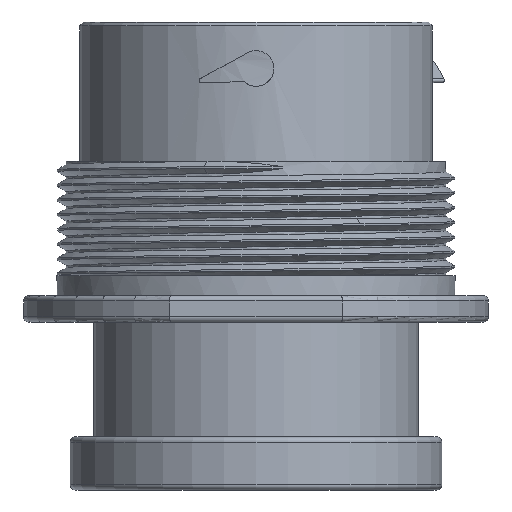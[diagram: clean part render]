
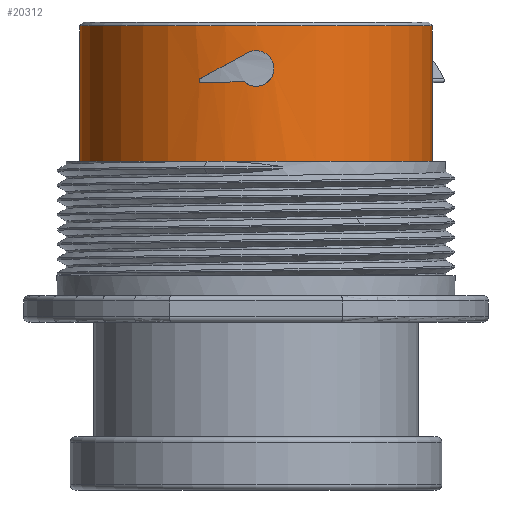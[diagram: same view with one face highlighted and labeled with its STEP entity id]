
A CAD part, left-side view. The second image highlights one B-rep face of the part: STEP entity #20312.
In plain terms, the highlighted cylindrical face has radius 16.878 mm (diameter 33.757 mm), a partial arc.
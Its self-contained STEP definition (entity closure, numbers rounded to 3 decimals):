
#7061=CARTESIAN_POINT('',(0.,0.,-0.381));
#7062=DIRECTION('',(0.,0.,1.));
#7063=DIRECTION('',(0.,1.,0.));
#7064=AXIS2_PLACEMENT_3D('',#7061,#7062,#7063);
#7066=DIRECTION('',(0.,0.,1.));
#7067=VECTOR('',#7066,12.954);
#7068=CARTESIAN_POINT('',(0.,-16.878,-13.335));
#7069=LINE('',#7068,#7067);
#7070=CARTESIAN_POINT('',(0.,0.,-13.335));
#7071=DIRECTION('',(0.,0.,1.));
#7072=DIRECTION('',(0.,1.,0.));
#7073=AXIS2_PLACEMENT_3D('',#7070,#7071,#7072);
#7075=DIRECTION('',(0.,0.,1.));
#7076=VECTOR('',#7075,12.954);
#7077=CARTESIAN_POINT('',(0.,16.878,-13.335));
#7078=LINE('',#7077,#7076);
#7079=CARTESIAN_POINT('',(-16.859,0.814,
-2.95));
#7080=CARTESIAN_POINT('',(-16.785,2.349,
-3.786));
#7081=CARTESIAN_POINT('',(-16.506,3.855,
-4.606));
#7082=CARTESIAN_POINT('',(-16.015,5.33,
-5.41));
#7084=CARTESIAN_POINT('',(-16.015,5.33,
-5.41));
#7085=CARTESIAN_POINT('',(-16.007,5.353,
-5.423));
#7086=CARTESIAN_POINT('',(-15.994,5.393,
-5.455));
#7087=CARTESIAN_POINT('',(-15.981,5.431,
-5.525));
#7088=CARTESIAN_POINT('',(-15.978,5.44,
-5.602));
#7089=CARTESIAN_POINT('',(-15.984,5.421,
-5.676));
#7090=CARTESIAN_POINT('',(-16.,5.375,
-5.74));
#7091=CARTESIAN_POINT('',(-16.022,5.307,
-5.782));
#7092=CARTESIAN_POINT('',(-16.039,5.256,
-5.792));
#7093=CARTESIAN_POINT('',(-16.048,5.228,
-5.791));
#7095=CARTESIAN_POINT('',(-16.84,1.136,
-5.712));
#7096=CARTESIAN_POINT('',(-16.746,2.533,
-5.739));
#7097=CARTESIAN_POINT('',(-16.482,3.897,
-5.765));
#7098=CARTESIAN_POINT('',(-16.048,5.228,
-5.791));
#7100=CARTESIAN_POINT('',(-16.84,1.136,
-5.712));
#7101=CARTESIAN_POINT('',(-16.847,1.026,
-5.811));
#7102=CARTESIAN_POINT('',(-16.861,0.789,
-5.974));
#7103=CARTESIAN_POINT('',(-16.876,0.37,
-6.125));
#7104=CARTESIAN_POINT('',(-16.88,-0.066,
-6.164));
#7105=CARTESIAN_POINT('',(-16.873,-0.505,
-6.09));
#7106=CARTESIAN_POINT('',(-16.856,-0.903,
-5.91));
#7107=CARTESIAN_POINT('',(-16.833,-1.25,
-5.627));
#7108=CARTESIAN_POINT('',(-16.811,-1.507,
-5.276));
#7109=CARTESIAN_POINT('',(-16.796,-1.67,
-4.858));
#7110=CARTESIAN_POINT('',(-16.79,-1.721,
-4.427));
#7111=CARTESIAN_POINT('',(-16.797,-1.658,
-3.983));
#7112=CARTESIAN_POINT('',(-16.813,-1.489,
-3.582));
#7113=CARTESIAN_POINT('',(-16.835,-1.216,
-3.228));
#7114=CARTESIAN_POINT('',(-16.857,-0.87,
-2.96));
#7115=CARTESIAN_POINT('',(-16.874,-0.46,
-2.787));
#7116=CARTESIAN_POINT('',(-16.88,-0.026,
-2.724));
#7117=CARTESIAN_POINT('',(-16.875,0.415,
-2.776));
#7118=CARTESIAN_POINT('',(-16.865,0.684,
-2.88));
#7119=CARTESIAN_POINT('',(-16.859,0.814,
-2.95));
#8026=CARTESIAN_POINT('',(0.,16.878,-13.335));
#8027=CARTESIAN_POINT('',(0.,-16.878,-13.335));
#8028=VERTEX_POINT('',#8026);
#8029=VERTEX_POINT('',#8027);
#8094=CARTESIAN_POINT('',(0.,16.878,-0.381));
#8095=CARTESIAN_POINT('',(0.,-16.878,-0.381));
#8096=VERTEX_POINT('',#8094);
#8097=VERTEX_POINT('',#8095);
#8272=VERTEX_POINT('',#7079);
#8273=VERTEX_POINT('',#7082);
#8274=VERTEX_POINT('',#7093);
#8275=VERTEX_POINT('',#7095);
#20291=CARTESIAN_POINT('',(0.,0.,1.984));
#20292=DIRECTION('',(0.,0.,-1.));
#20293=DIRECTION('',(0.,-1.,0.));
#20294=AXIS2_PLACEMENT_3D('',#20291,#20292,#20293);
#20295=CYLINDRICAL_SURFACE('',#20294,16.878);
#20296=ORIENTED_EDGE('',*,*,#20285,.T.);
#20297=ORIENTED_EDGE('',*,*,#14486,.F.);
#20298=ORIENTED_EDGE('',*,*,#14471,.F.);
#20299=ORIENTED_EDGE('',*,*,#14483,.T.);
#20300=EDGE_LOOP('',(#20296,#20297,#20298,#20299));
#20301=FACE_OUTER_BOUND('',#20300,.F.);
#20303=ORIENTED_EDGE('',*,*,#20302,.T.);
#20305=ORIENTED_EDGE('',*,*,#20304,.T.);
#20307=ORIENTED_EDGE('',*,*,#20306,.F.);
#20309=ORIENTED_EDGE('',*,*,#20308,.T.);
#20310=EDGE_LOOP('',(#20303,#20305,#20307,#20309));
#20311=FACE_BOUND('',#20310,.F.);
#20312=ADVANCED_FACE('',(#20301,#20311),#20295,.T.);
#7065=CIRCLE('',#7064,16.878);
#7074=CIRCLE('',#7073,16.878);
#7083=B_SPLINE_CURVE_WITH_KNOTS('',3,(#7079,#7080,#7081,#7082),.UNSPECIFIED.,
.F.,.F.,(4,4),(0.,1.),.UNSPECIFIED.);
#7094=B_SPLINE_CURVE_WITH_KNOTS('',3,(#7084,#7085,#7086,#7087,#7088,#7089,#7090,
#7091,#7092,#7093),.UNSPECIFIED.,.F.,.F.,(4,1,1,1,1,1,1,4),(0.,
0.143,0.286,0.429,0.571,
0.714,0.857,1.),.UNSPECIFIED.);
#7099=B_SPLINE_CURVE_WITH_KNOTS('',3,(#7095,#7096,#7097,#7098),.UNSPECIFIED.,
.F.,.F.,(4,4),(0.,1.),.UNSPECIFIED.);
#7120=B_SPLINE_CURVE_WITH_KNOTS('',3,(#7100,#7101,#7102,#7103,#7104,#7105,#7106,
#7107,#7108,#7109,#7110,#7111,#7112,#7113,#7114,#7115,#7116,#7117,#7118,#7119),
.UNSPECIFIED.,.F.,.F.,(4,1,1,1,1,1,1,1,1,1,1,1,1,1,1,1,1,4),(0.,
0.059,0.118,0.176,0.235,
0.294,0.353,0.412,0.471,
0.529,0.588,0.647,0.706,
0.765,0.824,0.882,0.941,1.),
.UNSPECIFIED.);
#14471=EDGE_CURVE('',#8028,#8029,#7074,.T.);
#14483=EDGE_CURVE('',#8028,#8096,#7078,.T.);
#14486=EDGE_CURVE('',#8029,#8097,#7069,.T.);
#20285=EDGE_CURVE('',#8096,#8097,#7065,.T.);
#20302=EDGE_CURVE('',#8272,#8273,#7083,.T.);
#20304=EDGE_CURVE('',#8273,#8274,#7094,.T.);
#20306=EDGE_CURVE('',#8275,#8274,#7099,.T.);
#20308=EDGE_CURVE('',#8275,#8272,#7120,.T.);
